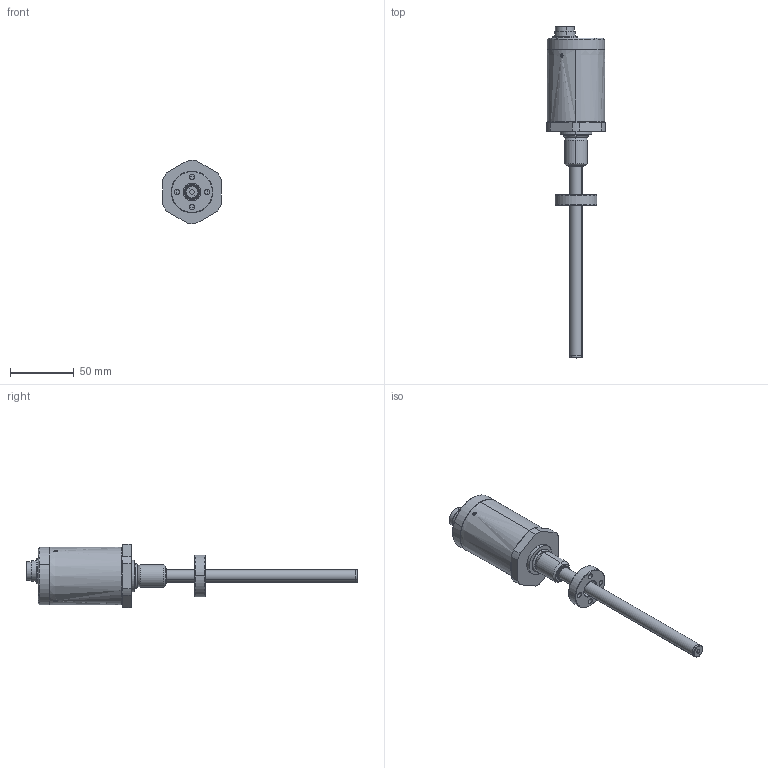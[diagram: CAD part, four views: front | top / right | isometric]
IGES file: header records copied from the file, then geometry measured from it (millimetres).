
Start section: SolidWorks IGES file using analytic representation for surfaces
Global section: file name: \\srv4gefran\dir-cat\Disegni Catalogo\Posizione\WRG\WRG-A-0100\3D\Solidworks 2019\WRG-075-PLAM\WRG-075-PLAM.IGS; native system: SolidWorks 2019; preprocessor: SolidWorks 2019; author: Loda-w1; date: 181217.144447; units: millimetre
Bounding box: 46.05 x 260.7 x 50 mm (x, y, z)
Surface area: 36871.6 mm2 (no closed solid volume)
Topology: 0 solids, 0 shells, 493 faces, 5884 edges, 5866 vertices
Faces by surface type: revolution 265, bspline 228
